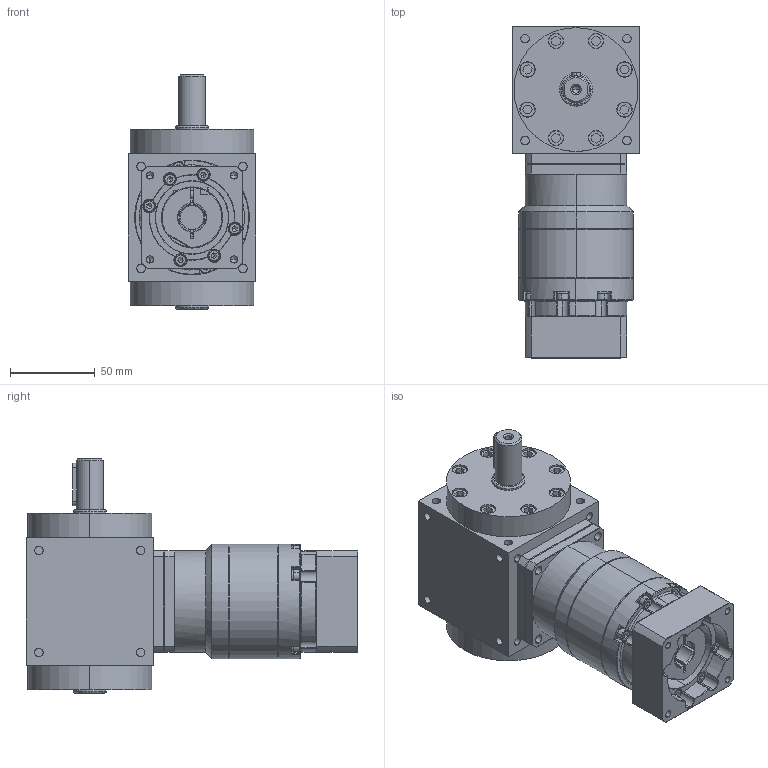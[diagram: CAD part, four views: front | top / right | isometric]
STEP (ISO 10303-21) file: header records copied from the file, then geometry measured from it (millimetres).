
FILE_DESCRIPTION (( 'STEP AP203' ), '1' );
FILE_NAME ('AT075-FL1-L2 14-50-70-M5.STEP', '2024-12-19T02:44:58', ( '' ), ( '' ), 'SwSTEP 2.0', 'SolidWorks 2021', '' );
FILE_SCHEMA (( 'CONFIG_CONTROL_DESIGN' ));
Length unit declared in the file: millimetre
Products named in the file (3): AT075-FL1; VRB-060-L2-S2-P1 14-50-70-M5; AT075-FL1-L2 14-50-70-M5
Assembly tree (2 placements, depth 2):
  AT075-FL1-L2 14-50-70-M5
    AT075-FL1
    VRB-060-L2-S2-P1 14-50-70-M5
Bounding box: 75 x 195.5 x 138 mm (x, y, z)
Volume: 850835.3 mm3; surface area: 134222.7 mm2
Topology: 34 solids, 34 shells, 1483 faces, 3664 edges, 2297 vertices
Faces by surface type: plane 604, cylinder 579, cone 230, torus 54, bspline 16
Entity records: 44831 total; most frequent: CARTESIAN_POINT 9345, DIRECTION 7667, ORIENTED_EDGE 7208, EDGE_CURVE 3604, AXIS2_PLACEMENT_3D 2988, VERTEX_POINT 2297, LINE 1691, VECTOR 1691
